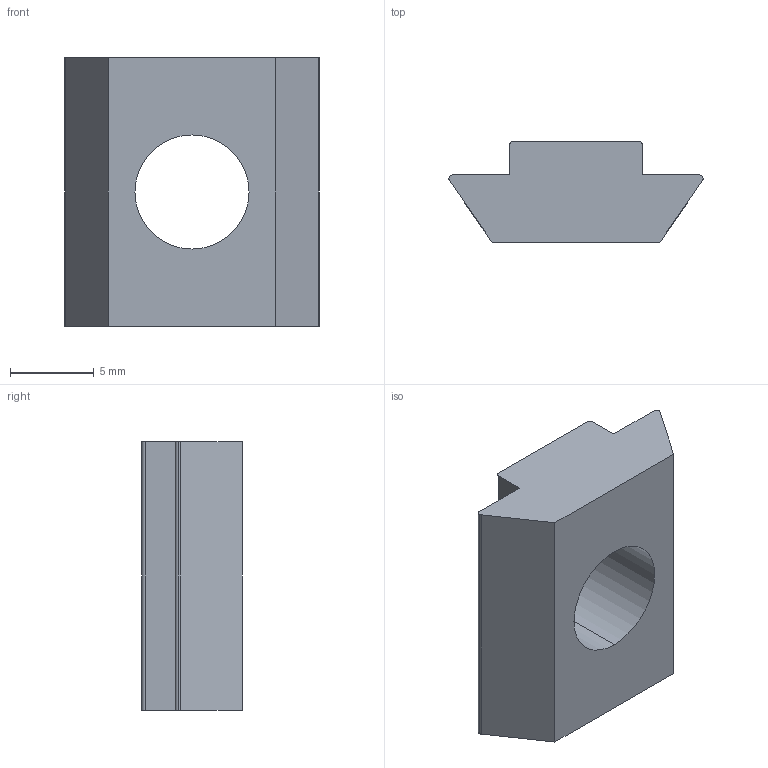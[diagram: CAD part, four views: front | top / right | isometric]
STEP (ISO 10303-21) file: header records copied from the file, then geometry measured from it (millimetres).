
FILE_DESCRIPTION (( 'STEP AP203' ), '1' );
FILE_NAME ('SLN8-83030.STEP', '2018-03-15T12:20:53', ( '' ), ( '' ), 'SwSTEP 2.0', 'SolidWorks 2013', '' );
FILE_SCHEMA (( 'CONFIG_CONTROL_DESIGN' ));
Length unit declared in the file: millimetre
Products named in the file (1): SLN8-83030
Bounding box: 15.14 x 6 x 16 mm (x, y, z)
Volume: 849.6 mm3; surface area: 803.1 mm2
Topology: 1 solids, 1 shells, 17 faces, 45 edges, 30 vertices
Faces by surface type: plane 10, cylinder 7
Entity records: 614 total; most frequent: DIRECTION 95, CARTESIAN_POINT 93, ORIENTED_EDGE 90, EDGE_CURVE 45, AXIS2_PLACEMENT_3D 32, VECTOR 31, LINE 31, VERTEX_POINT 30
